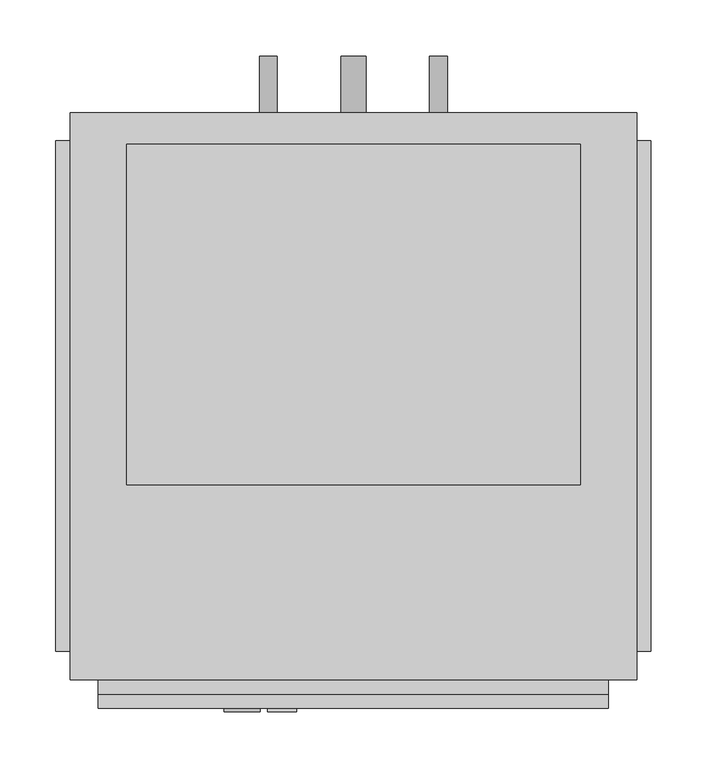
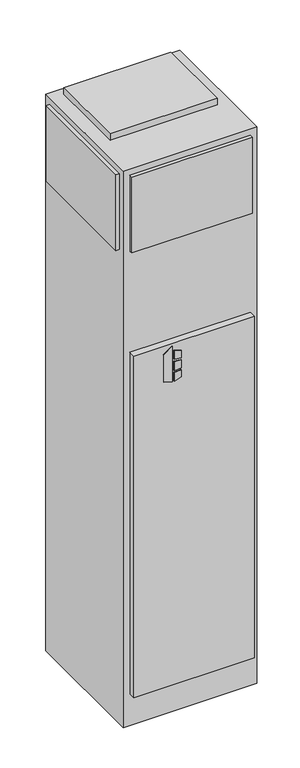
"""IFC4 building model written with IfcOpenShell, lengths in millimetres: proxy geometry, Concealed_Universal_Modular_Fan_Coil_Unit_-_MUY_-_IEC_-_2-Pipe_Cool-EHeat_-_NoRisers_2022 : Size 06 - 277v/60Hz/1Ph - 4 Row 6.0kW."""

from ifc_helpers import new_model, si_unit, point, frame, frame_2d, origin, origin_with_axes, place, context, project, spatial, polyline, circle_curve, trimmed, segment, composite_curve, outline, extrude, source, transform, mapped, element, save


def mechanical_equipment_c6af4a25(model_context):
    return source(origin(), model_context, "Body", "SweptSolid", [
        extrude(outline(polyline([(1356.1480703, 290.5868862), (1346.2, 322.7602728), (1488.3709244, 322.7602728), (1465.3489183, 290.5868862), (1356.1480703, 290.5868862)])), frame((0.0, -292.1, 0.0), z_axis=(0.0, 1.0, 0.0), x_axis=(0.0, 0.0, 1.0)), (0.0, 0.0, 1.0), 3.175),
        extrude(outline(polyline([(1435.1473557, 329.5186058), (1431.9449632, 355.6), (1461.1738042, 355.6), (1469.2382193, 329.5186058), (1435.1473557, 329.5186058)])), frame((0.0, -292.1, 0.0), z_axis=(0.0, 1.0, 0.0), x_axis=(0.0, 0.0, 1.0)), (0.0, 0.0, 1.0), 3.175),
        extrude(outline(polyline([(1383.2838288, 355.6), (1379.6183279, 329.5186058), (1346.2, 329.5186058), (1354.8342372, 355.6), (1383.2838288, 355.6)])), frame((0.0, -292.1, 0.0), z_axis=(0.0, 1.0, 0.0), x_axis=(0.0, 0.0, 1.0)), (0.0, 0.0, 1.0), 3.175),
        extrude(outline(polyline([(1422.5989903, 355.6), (1424.8808166, 329.5186058), (1388.9432681, 329.5186058), (1391.6845331, 355.6), (1422.5989903, 355.6)])), frame((0.0, -292.1, 0.0), z_axis=(0.0, 1.0, 0.0), x_axis=(0.0, 0.0, 1.0)), (0.0, 0.0, 1.0), 3.175),
        extrude(outline(composite_curve([segment(trimmed(circle_curve(frame_2d((990.6, 482.6)), 7.9375), [point((990.6, 474.6625))], [point((990.6, 490.5375))], False, "CARTESIAN"), True, "CONTINUOUS"), segment(trimmed(circle_curve(frame_2d((990.6, 482.6)), 7.9375), [point((990.6, 490.5375))], [point((990.6, 474.6625))], False, "CARTESIAN"), True, "CONTINUOUS")], self_intersect=False)), frame((0.0, 244.475, 0.0), z_axis=(0.0, 1.0, 0.0), x_axis=(0.0, 0.0, 1.0)), (0.0, 0.0, 1.0), 50.8),
        extrude(outline(composite_curve([segment(trimmed(circle_curve(frame_2d((990.6, 330.2)), 7.9375), [point((990.6, 322.2625))], [point((990.6, 338.1375))], False, "CARTESIAN"), True, "CONTINUOUS"), segment(trimmed(circle_curve(frame_2d((990.6, 330.2)), 7.9375), [point((990.6, 338.1375))], [point((990.6, 322.2625))], False, "CARTESIAN"), True, "CONTINUOUS")], self_intersect=False)), frame((0.0, 244.475, 0.0), z_axis=(0.0, 1.0, 0.0), x_axis=(0.0, 0.0, 1.0)), (0.0, 0.0, 1.0), 50.8),
        extrude(outline(composite_curve([segment(trimmed(circle_curve(frame_2d((76.2, 406.4)), 11.1125), [point((76.2, 395.2875))], [point((76.2, 417.5125))], False, "CARTESIAN"), True, "CONTINUOUS"), segment(trimmed(circle_curve(frame_2d((76.2, 406.4)), 11.1125), [point((76.2, 417.5125))], [point((76.2, 395.2875))], False, "CARTESIAN"), True, "CONTINUOUS")], self_intersect=False)), frame((0.0, 244.475, 0.0), z_axis=(0.0, 1.0, 0.0), x_axis=(0.0, 0.0, 1.0)), (0.0, 0.0, 1.0), 50.8),
        extrude(outline(polyline([(609.6, 215.9), (609.6, -88.9), (203.2, -88.9), (203.2, 215.9), (609.6, 215.9)])), frame((0.0, 0.0, 2235.2), z_axis=(0.0, 0.0, 1.0), x_axis=(1.0, 0.0, 0.0)), (0.0, 0.0, 1.0), 25.4),
        extrude(outline(polyline([(139.7, -238.125), (139.7, 219.075), (152.4, 219.075), (152.4, -238.125), (139.7, -238.125)])), frame((0.0, 0.0, 1905.0), z_axis=(0.0, 0.0, 1.0), x_axis=(1.0, 0.0, 0.0)), (0.0, 0.0, 1.0), 304.8),
        extrude(outline(polyline([(673.1, 219.075), (673.1, -238.125), (660.4, -238.125), (660.4, 219.075), (673.1, 219.075)])), frame((0.0, 0.0, 1905.0), z_axis=(0.0, 0.0, 1.0), x_axis=(1.0, 0.0, 0.0)), (0.0, 0.0, 1.0), 304.8),
        extrude(outline(polyline([(635.0, -276.225), (177.8, -276.225), (177.8, -263.525), (635.0, -263.525), (635.0, -276.225)])), frame((0.0, 0.0, 1905.0), z_axis=(0.0, 0.0, 1.0), x_axis=(1.0, 0.0, 0.0)), (0.0, 0.0, 1.0), 304.8),
        extrude(outline(polyline([(635.0, -288.925), (177.8, -288.925), (177.8, -263.525), (635.0, -263.525), (635.0, -288.925)])), frame((0.0, 0.0, 127.0), z_axis=(0.0, 0.0, 1.0), x_axis=(1.0, 0.0, 0.0)), (0.0, 0.0, 1.0), 1371.6),
        extrude(outline(polyline([(660.4, 244.475), (660.4, -263.525), (152.4, -263.525), (152.4, 244.475), (660.4, 244.475)])), origin_with_axes(), (0.0, 0.0, 1.0), 2235.2),
    ])


if __name__ == "__main__":
    model = new_model("IFC4")
    model_context = context("Model", 3, world=origin())
    ifc_project = project(units=[si_unit("LENGTHUNIT", "METRE", prefix="MILLI")], contexts=[model_context])
    site = spatial("IfcSite", under=ifc_project)
    building = spatial("IfcBuilding", under=site)
    placement = place(None, origin())
    mechanical_equipment_shape = mechanical_equipment_c6af4a25(model_context)
    element("IfcBuildingElementProxy", 1, Name="Concealed_Universal_Modular_Fan_Coil_Unit_-_MUY_-_IEC_-_2-Pipe_Cool-EHeat_-_NoRisers_2022 : Size 06 - 277v/60Hz/1Ph - 4 Row 6.0kW", ObjectType="Concealed_Universal_Modular_Fan_Coil_Unit_-_MUY_-_IEC_-_2-Pipe_Cool-EHeat_-_NoRisers_2022 : Size 06 - 277v/60Hz/1Ph - 4 Row 6.0kW", at=placement, inside=building, context=model_context, shape_type="MappedRepresentation", body=[
        mapped(mechanical_equipment_shape, transform((0.0, 0.0, 0.0), x_axis=(1.0, 0.0, 0.0), y_axis=(0.0, 1.0, 0.0), z_axis=(0.0, 0.0, 1.0))),
    ])
    save(model, "model.ifc")
